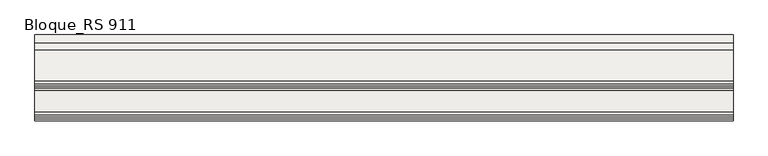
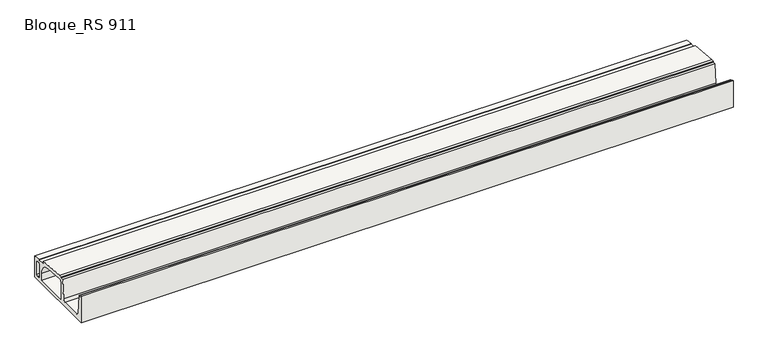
"""IFC4 building model written with IfcOpenShell, lengths in millimetres: slab geometry, ROSA GRES_RS 911 : Bloque_RS 911."""

from ifc_helpers import new_model, si_unit, point, frame, frame_2d, origin, place, context, project, spatial, polyline, circle_curve, trimmed, segment, composite_curve, outline, extrude, source, transform, mapped, element, save


def bloque_rs_911_7a120cf1(model_context):
    return source(origin(), model_context, "Body", "SweptSolid", [
        extrude(outline(composite_curve([segment(polyline([(-12.836227, 1.7539108), (-626.836227, 1.7539108), (-626.836227, 216.3460936), (-616.836227, 216.3460936), (-616.836227, 206.3460936), (-598.836227, 206.3460936), (-587.1239808, 55.2086635)]), True, "CONTINUOUS"), segment(trimmed(circle_curve(frame_2d((-567.1837649, 56.7539108)), 20.0), [point((-587.1239808, 55.2086635))], [point((-567.1837649, 36.7539108))], True, "CARTESIAN"), True, "CONTINUOUS"), segment(polyline([(-567.1837649, 36.7539108), (-413.4886891, 36.7539108)]), True, "CONTINUOUS"), segment(trimmed(circle_curve(frame_2d((-413.4886891, 56.7539108)), 20.0), [point((-413.4886891, 36.7539108))], [point((-393.5484732, 55.2086635))], True, "CARTESIAN"), True, "CONTINUOUS"), segment(polyline([(-393.5484732, 55.2086635), (-381.836227, 206.3460936), (-363.836227, 206.3460936), (-363.836227, 216.3460936), (-343.836227, 216.3460936), (-343.836227, 214.7181867), (-123.836227, 196.8112099), (-125.1172881, 181.0724591), (-72.836227, 176.8170239), (-72.836227, 173.8170239), (-67.836227, 173.8170239), (-67.836227, 176.4100471), (-12.836227, 171.9333029), (-12.836227, 1.7539108)]), True, "CONTINUOUS")], self_intersect=False), holes=[composite_curve([segment(polyline([(-67.836227, 140.6431347), (-67.836227, 36.7539108)]), True, "CONTINUOUS"), segment(trimmed(circle_curve(frame_2d((-59.836227, 36.7539108)), 8.0), [point((-67.836227, 36.7539108))], [point((-59.836227, 28.7539108))], True, "CARTESIAN"), True, "CONTINUOUS"), segment(polyline([(-59.836227, 28.7539108), (-47.836227, 28.7539108)]), True, "CONTINUOUS"), segment(trimmed(circle_curve(frame_2d((-47.836227, 36.7539108)), 8.0), [point((-47.836227, 28.7539108))], [point((-39.836227, 36.7539108))], True, "CARTESIAN"), True, "CONTINUOUS"), segment(polyline([(-39.836227, 36.7539108), (-39.836227, 139.6663905)]), True, "CONTINUOUS"), segment(trimmed(circle_curve(frame_2d((-47.836227, 139.6663905)), 8.0), [point((-39.836227, 139.6663905))], [point((-47.1872106, 147.6400206))], True, "CARTESIAN"), True, "CONTINUOUS"), segment(polyline([(-47.1872106, 147.6400206), (-59.1872106, 148.6167648)]), True, "CONTINUOUS"), segment(trimmed(circle_curve(frame_2d((-59.836227, 140.6431347)), 8.0), [point((-59.1872106, 148.6167648))], [point((-67.836227, 140.6431347))], True, "CARTESIAN"), True, "CONTINUOUS")], self_intersect=False), composite_curve([segment(polyline([(-180.4105134, 169.2541533), (-334.6837717, 181.811279)]), True, "CONTINUOUS"), segment(trimmed(circle_curve(frame_2d((-336.3063127, 161.8772036)), 20.0), [point((-334.6837717, 181.811279))], [point((-356.3063127, 161.8772036))], True, "CARTESIAN"), True, "CONTINUOUS"), segment(polyline([(-356.3063127, 161.8772036), (-356.3063127, 28.7539108), (-102.3063127, 28.7539108), (-102.3063127, 84.534333)]), True, "CONTINUOUS"), segment(trimmed(circle_curve(frame_2d((-187.3063127, 84.534333)), 85.0), [point((-102.3063127, 84.534333))], [point((-180.4105134, 169.2541533))], True, "CARTESIAN"), True, "CONTINUOUS")], self_intersect=False)]), frame((0.0, 0.0, 0.0), z_axis=(1.0, 0.0, 0.0), x_axis=(0.0, 1.0, 0.0)), (0.0, 0.0, 1.0), 4999.625),
    ])


if __name__ == "__main__":
    model = new_model("IFC4")
    model_context = context("Model", 3, world=origin())
    ifc_project = project(units=[si_unit("LENGTHUNIT", "METRE", prefix="MILLI")], contexts=[model_context])
    site = spatial("IfcSite", under=ifc_project)
    building = spatial("IfcBuilding", under=site)
    placement = place(None, origin())
    bloque_rs_911_shape = bloque_rs_911_7a120cf1(model_context)
    element("IfcSlab", 1, ObjectType="ROSA GRES_RS 911 : Bloque_RS 911", at=placement, inside=building, context=model_context, shape_type="MappedRepresentation", body=[
        mapped(bloque_rs_911_shape, transform((0.0, 0.0, 0.0), x_axis=(1.0, 0.0, 0.0), y_axis=(0.0, 1.0, 0.0), z_axis=(0.0, 0.0, 1.0))),
    ])
    save(model, "model.ifc")
